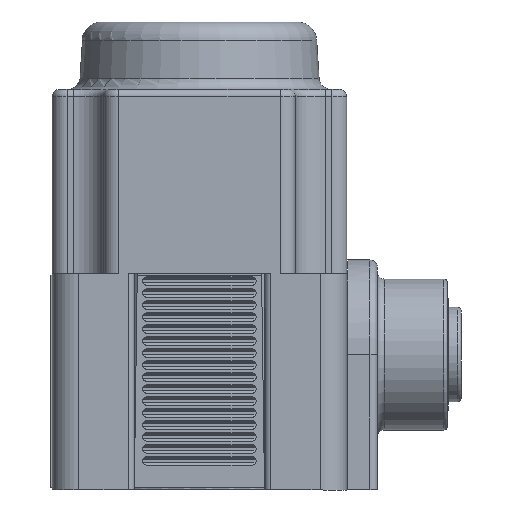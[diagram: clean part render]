
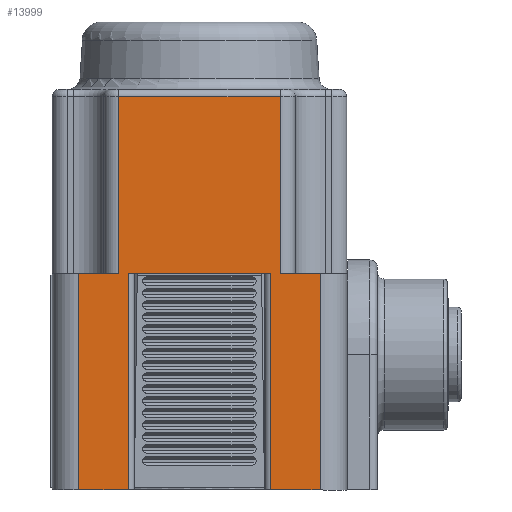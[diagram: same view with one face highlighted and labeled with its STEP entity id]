
A CAD part, left-side view. The second image highlights one B-rep face of the part: STEP entity #13999.
In plain terms, the highlighted planar face has unit normal (-1, 0, 0).
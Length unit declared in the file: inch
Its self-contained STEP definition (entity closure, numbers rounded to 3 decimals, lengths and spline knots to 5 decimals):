
#1659=LINE('',#24309,#2593);
#1672=LINE('',#24379,#2606);
#1795=LINE('',#25955,#2729);
#1813=LINE('',#26015,#2747);
#1814=LINE('',#26019,#2748);
#1817=LINE('',#26038,#2751);
#1830=LINE('',#26107,#2764);
#1831=LINE('',#26111,#2765);
#1832=LINE('',#26112,#2766);
#1833=LINE('',#26114,#2767);
#1834=LINE('',#26116,#2768);
#1835=LINE('',#26117,#2769);
#2593=VECTOR('',#18521,0.3937);
#2606=VECTOR('',#18604,0.3937);
#2729=VECTOR('',#18929,0.3937);
#2747=VECTOR('',#19001,0.3937);
#2748=VECTOR('',#19006,0.3937);
#2751=VECTOR('',#19027,0.3937);
#2764=VECTOR('',#19118,0.3937);
#2765=VECTOR('',#19123,0.3937);
#2766=VECTOR('',#19124,0.3937);
#2767=VECTOR('',#19125,0.3937);
#2768=VECTOR('',#19126,0.3937);
#2769=VECTOR('',#19127,0.3937);
#3599=FACE_OUTER_BOUND('',#4440,.T.);
#4440=EDGE_LOOP('',(#12002,#12003,#12004,#12005,#12006,#12007,#12008,#12009,
#12010,#12011,#12012,#12013));
#6049=VERTEX_POINT('',#24301);
#6051=VERTEX_POINT('',#24307);
#6073=VERTEX_POINT('',#24377);
#6209=VERTEX_POINT('',#25952);
#6210=VERTEX_POINT('',#25954);
#6225=VERTEX_POINT('',#26014);
#6226=VERTEX_POINT('',#26018);
#6233=VERTEX_POINT('',#26036);
#6250=VERTEX_POINT('',#26106);
#6251=VERTEX_POINT('',#26110);
#6252=VERTEX_POINT('',#26113);
#6253=VERTEX_POINT('',#26115);
#7869=EDGE_CURVE('',#6051,#6049,#1659,.T.);
#7905=EDGE_CURVE('',#6073,#6051,#1672,.T.);
#8114=EDGE_CURVE('',#6210,#6209,#1795,.T.);
#8144=EDGE_CURVE('',#6225,#6049,#1813,.T.);
#8146=EDGE_CURVE('',#6226,#6225,#1814,.T.);
#8156=EDGE_CURVE('',#6073,#6233,#1817,.T.);
#8190=EDGE_CURVE('',#6250,#6210,#1830,.T.);
#8192=EDGE_CURVE('',#6251,#6233,#1831,.T.);
#8193=EDGE_CURVE('',#6250,#6251,#1832,.T.);
#8194=EDGE_CURVE('',#6252,#6209,#1833,.T.);
#8195=EDGE_CURVE('',#6252,#6253,#1834,.T.);
#8196=EDGE_CURVE('',#6253,#6226,#1835,.T.);
#12002=ORIENTED_EDGE('',*,*,#7869,.F.);
#12003=ORIENTED_EDGE('',*,*,#7905,.F.);
#12004=ORIENTED_EDGE('',*,*,#8156,.T.);
#12005=ORIENTED_EDGE('',*,*,#8192,.F.);
#12006=ORIENTED_EDGE('',*,*,#8193,.F.);
#12007=ORIENTED_EDGE('',*,*,#8190,.T.);
#12008=ORIENTED_EDGE('',*,*,#8114,.T.);
#12009=ORIENTED_EDGE('',*,*,#8194,.F.);
#12010=ORIENTED_EDGE('',*,*,#8195,.T.);
#12011=ORIENTED_EDGE('',*,*,#8196,.T.);
#12012=ORIENTED_EDGE('',*,*,#8146,.T.);
#12013=ORIENTED_EDGE('',*,*,#8144,.T.);
#12509=PLANE('',#15412);
#13999=ADVANCED_FACE('',(#3599),#12509,.T.);
#15412=AXIS2_PLACEMENT_3D('',#26109,#19121,#19122);
#18521=DIRECTION('',(0.,-1.,0.));
#18604=DIRECTION('',(0.,0.,1.));
#18929=DIRECTION('',(0.,-1.,0.));
#19001=DIRECTION('',(0.,0.,1.));
#19006=DIRECTION('',(0.,1.,0.));
#19027=DIRECTION('',(0.,1.,0.));
#19118=DIRECTION('',(0.,0.,1.));
#19121=DIRECTION('center_axis',(-1.,0.,0.));
#19122=DIRECTION('ref_axis',(0.,0.,1.));
#19123=DIRECTION('',(0.,0.,1.));
#19124=DIRECTION('',(0.,1.,0.));
#19125=DIRECTION('',(0.,0.,1.));
#19126=DIRECTION('',(0.,-1.,0.));
#19127=DIRECTION('',(0.,0.,1.));
#24301=CARTESIAN_POINT('',(0.8717,-0.76499,0.65855));
#24307=CARTESIAN_POINT('',(0.8717,-0.09699,0.65855));
#24309=CARTESIAN_POINT('',(0.8717,-0.09699,0.65855));
#24377=CARTESIAN_POINT('',(0.8717,-0.09699,-0.07345));
#24379=CARTESIAN_POINT('',(0.8717,-0.09699,-0.07345));
#25952=CARTESIAN_POINT('',(0.8717,-0.72499,-0.07345));
#25954=CARTESIAN_POINT('',(0.8717,-0.13699,-0.07345));
#25955=CARTESIAN_POINT('',(0.8717,-0.13699,-0.07345));
#26014=CARTESIAN_POINT('',(0.8717,-0.76499,-0.07345));
#26015=CARTESIAN_POINT('',(0.8717,-0.76499,-0.07345));
#26018=CARTESIAN_POINT('',(0.8717,-0.92999,-0.07345));
#26019=CARTESIAN_POINT('',(0.8717,-0.92999,-0.07345));
#26036=CARTESIAN_POINT('',(0.8717,0.06801,-0.07345));
#26038=CARTESIAN_POINT('',(0.8717,-0.09699,-0.07345));
#26106=CARTESIAN_POINT('',(0.8717,-0.13699,-0.96745));
#26107=CARTESIAN_POINT('',(0.8717,-0.13699,-0.96745));
#26109=CARTESIAN_POINT('Origin',(0.8717,-0.93039,-0.15445));
#26110=CARTESIAN_POINT('',(0.8717,0.06801,-0.96745));
#26111=CARTESIAN_POINT('',(0.8717,0.06801,-0.96745));
#26112=CARTESIAN_POINT('',(0.8717,-0.13699,-0.96745));
#26113=CARTESIAN_POINT('',(0.8717,-0.72499,-0.96745));
#26114=CARTESIAN_POINT('',(0.8717,-0.72499,-0.96745));
#26115=CARTESIAN_POINT('',(0.8717,-0.92999,-0.96745));
#26116=CARTESIAN_POINT('',(0.8717,-0.72499,-0.96745));
#26117=CARTESIAN_POINT('',(0.8717,-0.92999,-0.96745));
